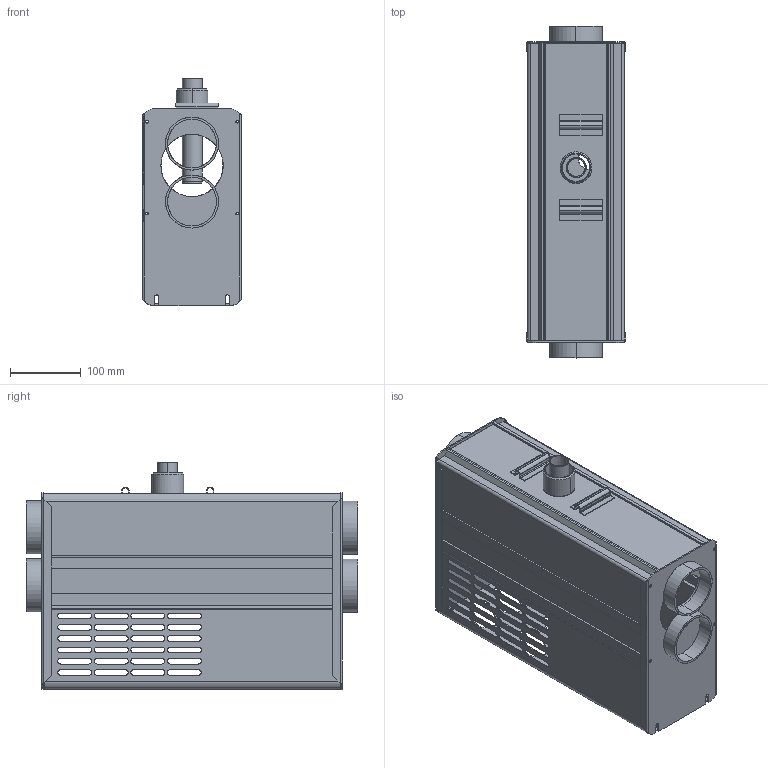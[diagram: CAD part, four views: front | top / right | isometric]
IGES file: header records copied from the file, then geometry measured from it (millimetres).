
Start section: SolidWorks IGES file using analytic representation for surfaces
Global section: file name: Y:\YLEISET\LYHYTAIKAISET SIIRROT\Jussi\iges\22Dt 30Dt.IGS; native system: SolidWorks 2012; preprocessor: SolidWorks 2012; author: janne; date: 131204.203641; units: millimetre
Bounding box: 140.13 x 469.16 x 320.98 mm (x, y, z)
Surface area: 1048111.5 mm2 (no closed solid volume)
Topology: 0 solids, 0 shells, 725 faces, 14208 edges, 14208 vertices
Faces by surface type: bspline 423, revolution 302
